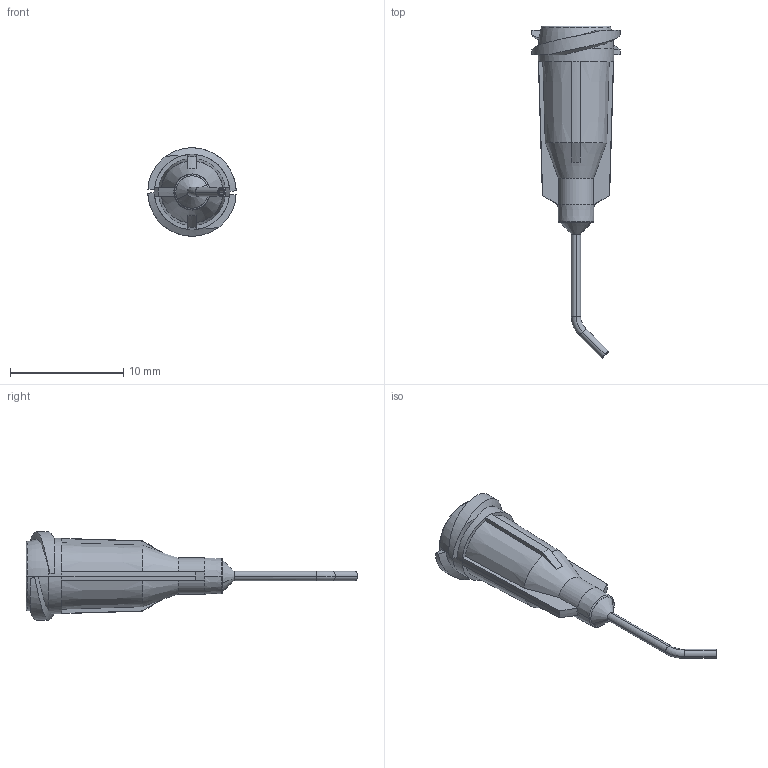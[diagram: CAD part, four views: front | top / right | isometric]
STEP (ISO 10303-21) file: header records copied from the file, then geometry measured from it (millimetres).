
FILE_DESCRIPTION (( 'STEP AP214' ), '1' );
FILE_NAME ('NORDSONEFD-7018230 TIP 21GA GP 020 45D PR.STEP', '2019-02-28T05:40:12', ( '' ), ( '' ), 'SwSTEP 2.0', 'SolidWorks 2019', '' );
FILE_SCHEMA (( 'AUTOMOTIVE_DESIGN' ));
Length unit declared in the file: inch
Products named in the file (1): NORDSONEFD-7018230 TIP 21GA GP 020 45D PR
Bounding box: 7.82 x 29.36 x 7.82 mm (x, y, z)
Volume: 267.5 mm3; surface area: 594.3 mm2
Topology: 1 solids, 1 shells, 128 faces, 298 edges, 176 vertices
Faces by surface type: torus 38, cylinder 30, plane 26, cone 22, bspline 12
Entity records: 4524 total; most frequent: CARTESIAN_POINT 1137, DIRECTION 646, ORIENTED_EDGE 596, EDGE_CURVE 298, AXIS2_PLACEMENT_3D 287, VERTEX_POINT 176, CIRCLE 170, EDGE_LOOP 134
